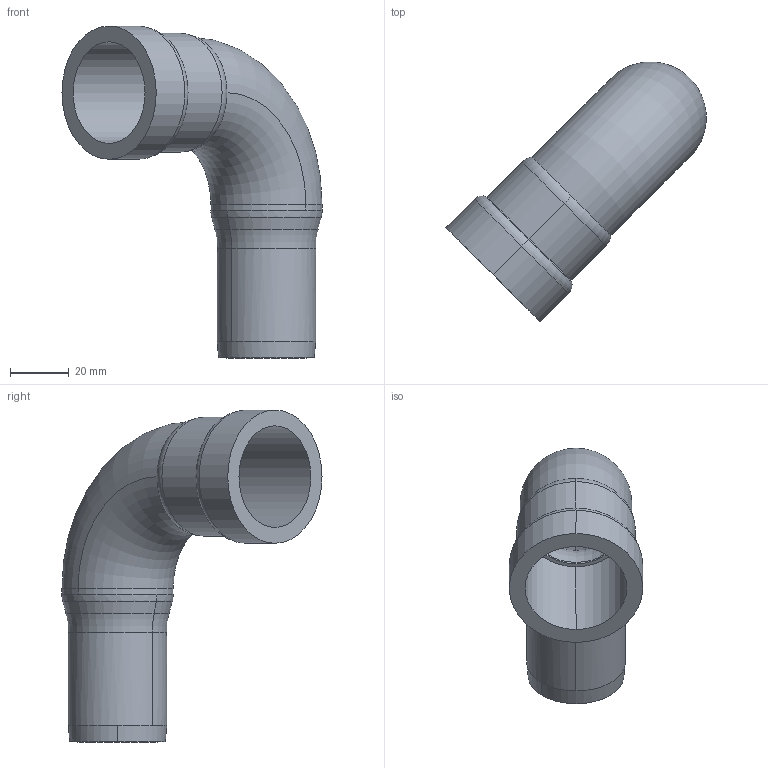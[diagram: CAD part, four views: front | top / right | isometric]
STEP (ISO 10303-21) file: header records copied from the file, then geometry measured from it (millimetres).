
FILE_DESCRIPTION(('Creo Elements/Direct Modeling STEP Export'),'2;1');
FILE_NAME('C9411_1.stp','2020-06-25T10:47:04',(''),(''),'PTC Creo Elements/Direct Modeling STEP processor for AP214 (Solid Model)','PTC Creo Elements/Direct Modeling 19.0C 15-Aug-2015 (C) Parametric Technology GmbH','');
FILE_SCHEMA(('AUTOMOTIVE_DESIGN { 1 0 10303 214 1 1 1 1 }'));
Length unit declared in the file: millimetre
Products named in the file (2): C9411_1
Assembly tree (1 placements, depth 2):
  C9411_1
    C9411_1
Bounding box: 88.54 x 88.54 x 113.01 mm (x, y, z)
Volume: 54447.3 mm3; surface area: 33724.4 mm2
Topology: 1 solids, 1 shells, 44 faces, 100 edges, 60 vertices
Faces by surface type: cylinder 16, torus 16, cone 8, plane 4
Entity records: 1129 total; most frequent: ORIENTED_EDGE 200, DIRECTION 196, CARTESIAN_POINT 170, EDGE_CURVE 100, AXIS2_PLACEMENT_3D 86, VERTEX_POINT 60, EDGE_LOOP 48, FACE_OUTER_BOUND 44
